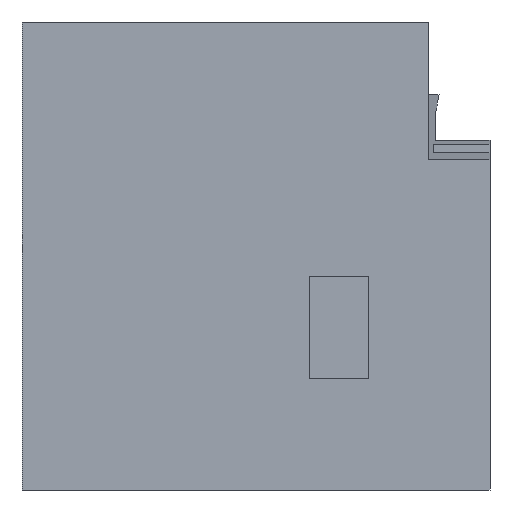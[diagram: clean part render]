
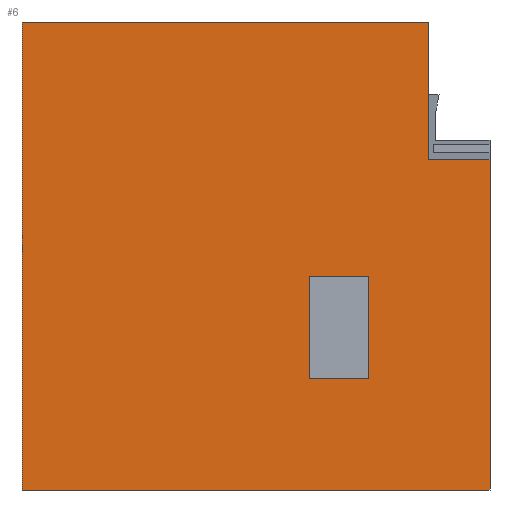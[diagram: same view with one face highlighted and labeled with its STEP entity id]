
A CAD part, left-side view. The second image highlights one B-rep face of the part: STEP entity #6.
In plain terms, the highlighted planar face has unit normal (-1, 0, 0).
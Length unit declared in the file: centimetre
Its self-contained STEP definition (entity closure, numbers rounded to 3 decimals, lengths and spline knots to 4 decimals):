
#6 = ADVANCED_FACE ( 'NONE', ( #48, #839 ), #446, .F. ) ;
#9 = VERTEX_POINT ( 'NONE', #252 ) ;
#14 = LINE ( 'NONE', #1198, #162 ) ;
#39 = VERTEX_POINT ( 'NONE', #56 ) ;
#48 = FACE_BOUND ( 'NONE', #1300, .T. ) ;
#50 = EDGE_CURVE ( 'NONE', #892, #1210, #728, .T. ) ;
#56 = CARTESIAN_POINT ( 'NONE',  ( 0., 0., 0. ) ) ;
#138 = ORIENTED_EDGE ( 'NONE', *, *, #608, .F. ) ;
#162 = VECTOR ( 'NONE', #510, 100. ) ;
#180 = LINE ( 'NONE', #1286, #529 ) ;
#202 = ORIENTED_EDGE ( 'NONE', *, *, #50, .F. ) ;
#205 = CARTESIAN_POINT ( 'NONE',  ( 0., 259.5156, 456.5928 ) ) ;
#210 = CARTESIAN_POINT ( 'NONE',  ( 0., 131.904, 705.9058 ) ) ;
#239 = DIRECTION ( 'NONE',  ( 1., 0., 0. ) ) ;
#246 = DIRECTION ( 'NONE',  ( 0., -1., 0. ) ) ;
#252 = CARTESIAN_POINT ( 'NONE',  ( 0., 1000., 1000. ) ) ;
#258 = CARTESIAN_POINT ( 'NONE',  ( 0., 1000., 1000. ) ) ;
#259 = DIRECTION ( 'NONE',  ( 0., -1., 0. ) ) ;
#272 = VECTOR ( 'NONE', #807, 100. ) ;
#273 = DIRECTION ( 'NONE',  ( 0., -1., 0. ) ) ;
#277 = ORIENTED_EDGE ( 'NONE', *, *, #775, .F. ) ;
#307 = VECTOR ( 'NONE', #981, 100. ) ;
#308 = LINE ( 'NONE', #704, #1132 ) ;
#365 = ORIENTED_EDGE ( 'NONE', *, *, #885, .F. ) ;
#373 = EDGE_CURVE ( 'NONE', #1210, #683, #308, .T. ) ;
#374 = CARTESIAN_POINT ( 'NONE',  ( 0., 131.904, 705.9058 ) ) ;
#387 = VECTOR ( 'NONE', #273, 100. ) ;
#400 = LINE ( 'NONE', #205, #272 ) ;
#429 = VECTOR ( 'NONE', #777, 100. ) ;
#443 = VECTOR ( 'NONE', #1003, 100. ) ;
#446 = PLANE ( 'NONE',  #1006 ) ;
#504 = CARTESIAN_POINT ( 'NONE',  ( 0., 259.5156, 237.2579 ) ) ;
#507 = DIRECTION ( 'NONE',  ( 0., 0., 1. ) ) ;
#510 = DIRECTION ( 'NONE',  ( 0., 0., -1. ) ) ;
#529 = VECTOR ( 'NONE', #1281, 100. ) ;
#558 = CARTESIAN_POINT ( 'NONE',  ( 0., 385.6698, 456.5928 ) ) ;
#578 = LINE ( 'NONE', #374, #387 ) ;
#600 = CARTESIAN_POINT ( 'NONE',  ( 0., 1000., 0. ) ) ;
#601 = ORIENTED_EDGE ( 'NONE', *, *, #1060, .F. ) ;
#608 = EDGE_CURVE ( 'NONE', #1119, #864, #578, .T. ) ;
#634 = EDGE_CURVE ( 'NONE', #9, #1029, #1185, .T. ) ;
#654 = DIRECTION ( 'NONE',  ( 0., 0., -1. ) ) ;
#657 = CARTESIAN_POINT ( 'NONE',  ( 0., 259.5156, 456.5928 ) ) ;
#683 = VERTEX_POINT ( 'NONE', #657 ) ;
#686 = CARTESIAN_POINT ( 'NONE',  ( 0., 385.6698, 237.2579 ) ) ;
#693 = CARTESIAN_POINT ( 'NONE',  ( 0., 1000., 0. ) ) ;
#700 = LINE ( 'NONE', #600, #443 ) ;
#704 = CARTESIAN_POINT ( 'NONE',  ( 0., 259.5156, 237.2579 ) ) ;
#728 = LINE ( 'NONE', #844, #800 ) ;
#747 = VERTEX_POINT ( 'NONE', #558 ) ;
#760 = ORIENTED_EDGE ( 'NONE', *, *, #634, .T. ) ;
#765 = CARTESIAN_POINT ( 'NONE',  ( 0., 1000., 1000. ) ) ;
#774 = ORIENTED_EDGE ( 'NONE', *, *, #373, .F. ) ;
#775 = EDGE_CURVE ( 'NONE', #961, #1119, #14, .T. ) ;
#777 = DIRECTION ( 'NONE',  ( 0., 0., -1. ) ) ;
#800 = VECTOR ( 'NONE', #246, 100. ) ;
#806 = ORIENTED_EDGE ( 'NONE', *, *, #812, .F. ) ;
#807 = DIRECTION ( 'NONE',  ( 0., 1., 0. ) ) ;
#812 = EDGE_CURVE ( 'NONE', #683, #747, #400, .T. ) ;
#839 = FACE_OUTER_BOUND ( 'NONE', #1147, .T. ) ;
#844 = CARTESIAN_POINT ( 'NONE',  ( 0., 259.5156, 237.2579 ) ) ;
#864 = VERTEX_POINT ( 'NONE', #1028 ) ;
#885 = EDGE_CURVE ( 'NONE', #9, #961, #1264, .T. ) ;
#892 = VERTEX_POINT ( 'NONE', #1156 ) ;
#930 = VECTOR ( 'NONE', #259, 100. ) ;
#961 = VERTEX_POINT ( 'NONE', #988 ) ;
#981 = DIRECTION ( 'NONE',  ( 0., 0., -1. ) ) ;
#988 = CARTESIAN_POINT ( 'NONE',  ( 0., 131.904, 1000. ) ) ;
#1003 = DIRECTION ( 'NONE',  ( 0., -1., 0. ) ) ;
#1006 = AXIS2_PLACEMENT_3D ( 'NONE', #258, #239, #654 ) ;
#1028 = CARTESIAN_POINT ( 'NONE',  ( 0., 0., 705.9058 ) ) ;
#1029 = VERTEX_POINT ( 'NONE', #693 ) ;
#1051 = CARTESIAN_POINT ( 'NONE',  ( 0., 1000., 1000. ) ) ;
#1060 = EDGE_CURVE ( 'NONE', #864, #39, #180, .T. ) ;
#1070 = LINE ( 'NONE', #686, #307 ) ;
#1082 = EDGE_CURVE ( 'NONE', #747, #892, #1070, .T. ) ;
#1115 = ORIENTED_EDGE ( 'NONE', *, *, #1225, .T. ) ;
#1119 = VERTEX_POINT ( 'NONE', #210 ) ;
#1132 = VECTOR ( 'NONE', #507, 100. ) ;
#1147 = EDGE_LOOP ( 'NONE', ( #601, #138, #277, #365, #760, #1115 ) ) ;
#1156 = CARTESIAN_POINT ( 'NONE',  ( 0., 385.6698, 237.2579 ) ) ;
#1185 = LINE ( 'NONE', #765, #429 ) ;
#1198 = CARTESIAN_POINT ( 'NONE',  ( 0., 131.904, 705.9058 ) ) ;
#1210 = VERTEX_POINT ( 'NONE', #504 ) ;
#1225 = EDGE_CURVE ( 'NONE', #1029, #39, #700, .T. ) ;
#1264 = LINE ( 'NONE', #1051, #930 ) ;
#1281 = DIRECTION ( 'NONE',  ( 0., 0., -1. ) ) ;
#1286 = CARTESIAN_POINT ( 'NONE',  ( 0., 0., 1000. ) ) ;
#1300 = EDGE_LOOP ( 'NONE', ( #774, #202, #1302, #806 ) ) ;
#1302 = ORIENTED_EDGE ( 'NONE', *, *, #1082, .F. ) ;
